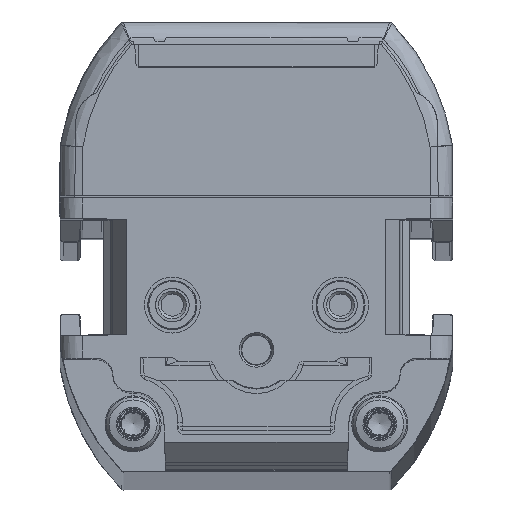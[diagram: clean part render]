
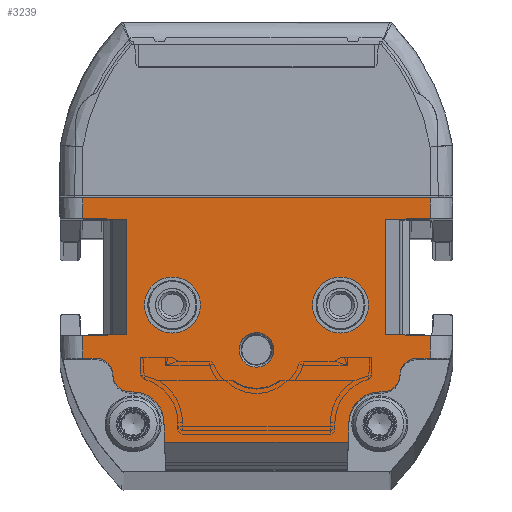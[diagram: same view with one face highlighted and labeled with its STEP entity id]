
A CAD part, top view. The second image highlights one B-rep face of the part: STEP entity #3239.
In plain terms, the highlighted planar face has unit normal (0, 0, 1).
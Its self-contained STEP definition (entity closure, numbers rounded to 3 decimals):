
#1178=FACE_BOUND('',#5343,.T.);
#1179=FACE_BOUND('',#5344,.T.);
#1180=FACE_BOUND('',#5345,.T.);
#1181=FACE_BOUND('',#5346,.T.);
#1900=CIRCLE('',#17502,2.5);
#1901=CIRCLE('',#17504,2.5);
#1902=CIRCLE('',#17506,1.55);
#1905=CIRCLE('',#17576,1.5);
#1906=CIRCLE('',#17577,1.5);
#1907=CIRCLE('',#17578,1.5);
#1908=CIRCLE('',#17579,1.5);
#1909=CIRCLE('',#17580,2.75);
#1910=CIRCLE('',#17581,2.75);
#3239=ADVANCED_FACE('',(#1178,#1179,#1180,#1181),#3754,.T.);
#3754=PLANE('',#17582);
#5343=EDGE_LOOP('',(#9281));
#5344=EDGE_LOOP('',(#9282));
#5345=EDGE_LOOP('',(#9283));
#5346=EDGE_LOOP('',(#9284,#9285,#9286,#9287,#9288,#9289,#9290,#9291,#9292,
#9293,#9294,#9295,#9296,#9297,#9298,#9299,#9300,#9301,#9302,#9303,#9304,
#9305,#9306,#9307,#9308,#9309));
#9281=ORIENTED_EDGE('',*,*,#13579,.T.);
#9282=ORIENTED_EDGE('',*,*,#13578,.F.);
#9283=ORIENTED_EDGE('',*,*,#13577,.F.);
#9284=ORIENTED_EDGE('',*,*,#13699,.F.);
#9285=ORIENTED_EDGE('',*,*,#13700,.T.);
#9286=ORIENTED_EDGE('',*,*,#13701,.T.);
#9287=ORIENTED_EDGE('',*,*,#13702,.T.);
#9288=ORIENTED_EDGE('',*,*,#13630,.T.);
#9289=ORIENTED_EDGE('',*,*,#13576,.T.);
#9290=ORIENTED_EDGE('',*,*,#13573,.T.);
#9291=ORIENTED_EDGE('',*,*,#13572,.T.);
#9292=ORIENTED_EDGE('',*,*,#13698,.T.);
#9293=ORIENTED_EDGE('',*,*,#13703,.F.);
#9294=ORIENTED_EDGE('',*,*,#13704,.F.);
#9295=ORIENTED_EDGE('',*,*,#13705,.F.);
#9296=ORIENTED_EDGE('',*,*,#13692,.T.);
#9297=ORIENTED_EDGE('',*,*,#13568,.F.);
#9298=ORIENTED_EDGE('',*,*,#13564,.T.);
#9299=ORIENTED_EDGE('',*,*,#13563,.F.);
#9300=ORIENTED_EDGE('',*,*,#13603,.T.);
#9301=ORIENTED_EDGE('',*,*,#13706,.F.);
#9302=ORIENTED_EDGE('',*,*,#13707,.T.);
#9303=ORIENTED_EDGE('',*,*,#13708,.T.);
#9304=ORIENTED_EDGE('',*,*,#13709,.F.);
#9305=ORIENTED_EDGE('',*,*,#13710,.F.);
#9306=ORIENTED_EDGE('',*,*,#13711,.F.);
#9307=ORIENTED_EDGE('',*,*,#13611,.T.);
#9308=ORIENTED_EDGE('',*,*,#13712,.F.);
#9309=ORIENTED_EDGE('',*,*,#13713,.F.);
#11499=VERTEX_POINT('',#29891);
#11500=VERTEX_POINT('',#29893);
#11501=VERTEX_POINT('',#29897);
#11502=VERTEX_POINT('',#29901);
#11504=VERTEX_POINT('',#29907);
#11506=VERTEX_POINT('',#29911);
#11507=VERTEX_POINT('',#29915);
#11508=VERTEX_POINT('',#29919);
#11509=VERTEX_POINT('',#29923);
#11510=VERTEX_POINT('',#29926);
#11511=VERTEX_POINT('',#29929);
#11528=VERTEX_POINT('',#30023);
#11533=VERTEX_POINT('',#30037);
#11534=VERTEX_POINT('',#30039);
#11547=VERTEX_POINT('',#30079);
#11581=VERTEX_POINT('',#30332);
#11585=VERTEX_POINT('',#30342);
#11586=VERTEX_POINT('',#30346);
#11587=VERTEX_POINT('',#30347);
#11588=VERTEX_POINT('',#30349);
#11589=VERTEX_POINT('',#30351);
#11590=VERTEX_POINT('',#30354);
#11591=VERTEX_POINT('',#30356);
#11592=VERTEX_POINT('',#30359);
#11593=VERTEX_POINT('',#30361);
#11594=VERTEX_POINT('',#30363);
#11595=VERTEX_POINT('',#30365);
#11596=VERTEX_POINT('',#30367);
#11597=VERTEX_POINT('',#30370);
#13563=EDGE_CURVE('',#11500,#11499,#15088,.T.);
#13564=EDGE_CURVE('',#11501,#11499,#15089,.T.);
#13568=EDGE_CURVE('',#11501,#11502,#15092,.T.);
#13572=EDGE_CURVE('',#11504,#11506,#15095,.T.);
#13573=EDGE_CURVE('',#11507,#11504,#15096,.T.);
#13576=EDGE_CURVE('',#11508,#11507,#15098,.T.);
#13577=EDGE_CURVE('',#11509,#11509,#1900,.T.);
#13578=EDGE_CURVE('',#11510,#11510,#1901,.T.);
#13579=EDGE_CURVE('',#11511,#11511,#1902,.T.);
#13603=EDGE_CURVE('',#11500,#11528,#15113,.T.);
#13611=EDGE_CURVE('',#11533,#11534,#15119,.T.);
#13630=EDGE_CURVE('',#11547,#11508,#15132,.T.);
#13692=EDGE_CURVE('',#11581,#11502,#15175,.T.);
#13698=EDGE_CURVE('',#11506,#11585,#15177,.T.);
#13699=EDGE_CURVE('',#11586,#11587,#15178,.T.);
#13700=EDGE_CURVE('',#11586,#11588,#1905,.T.);
#13701=EDGE_CURVE('',#11588,#11589,#1906,.T.);
#13702=EDGE_CURVE('',#11589,#11547,#15179,.T.);
#13703=EDGE_CURVE('',#11590,#11585,#15180,.T.);
#13704=EDGE_CURVE('',#11591,#11590,#15181,.T.);
#13705=EDGE_CURVE('',#11581,#11591,#15182,.T.);
#13706=EDGE_CURVE('',#11592,#11528,#15183,.T.);
#13707=EDGE_CURVE('',#11592,#11593,#1907,.T.);
#13708=EDGE_CURVE('',#11593,#11594,#1908,.T.);
#13709=EDGE_CURVE('',#11595,#11594,#15184,.T.);
#13710=EDGE_CURVE('',#11596,#11595,#1909,.T.);
#13711=EDGE_CURVE('',#11533,#11596,#15185,.T.);
#13712=EDGE_CURVE('',#11597,#11534,#15186,.T.);
#13713=EDGE_CURVE('',#11587,#11597,#1910,.T.);
#15088=LINE('',#29894,#16251);
#15089=LINE('',#29896,#16252);
#15092=LINE('',#29904,#16255);
#15095=LINE('',#29912,#16258);
#15096=LINE('',#29914,#16259);
#15098=LINE('',#29920,#16261);
#15113=LINE('',#30024,#16276);
#15119=LINE('',#30040,#16282);
#15132=LINE('',#30078,#16295);
#15175=LINE('',#30331,#16338);
#15177=LINE('',#30343,#16340);
#15178=LINE('',#30345,#16341);
#15179=LINE('',#30352,#16342);
#15180=LINE('',#30353,#16343);
#15181=LINE('',#30355,#16344);
#15182=LINE('',#30357,#16345);
#15183=LINE('',#30358,#16346);
#15184=LINE('',#30364,#16347);
#15185=LINE('',#30368,#16348);
#15186=LINE('',#30369,#16349);
#16251=VECTOR('',#20699,1.);
#16252=VECTOR('',#20702,1.);
#16255=VECTOR('',#20709,1.);
#16258=VECTOR('',#20716,1.);
#16259=VECTOR('',#20719,1.);
#16261=VECTOR('',#20725,1.);
#16276=VECTOR('',#20776,1.);
#16282=VECTOR('',#20790,1.);
#16295=VECTOR('',#20829,1.);
#16338=VECTOR('',#20940,1.);
#16340=VECTOR('',#20952,1.);
#16341=VECTOR('',#20955,1.);
#16342=VECTOR('',#20960,1.);
#16343=VECTOR('',#20961,1.);
#16344=VECTOR('',#20962,1.);
#16345=VECTOR('',#20963,1.);
#16346=VECTOR('',#20964,1.);
#16347=VECTOR('',#20969,1.);
#16348=VECTOR('',#20972,1.);
#16349=VECTOR('',#20973,1.);
#17502=AXIS2_PLACEMENT_3D('',#29922,#20728,#20729);
#17504=AXIS2_PLACEMENT_3D('',#29925,#20732,#20733);
#17506=AXIS2_PLACEMENT_3D('',#29928,#20736,#20737);
#17576=AXIS2_PLACEMENT_3D('',#30348,#20956,#20957);
#17577=AXIS2_PLACEMENT_3D('',#30350,#20958,#20959);
#17578=AXIS2_PLACEMENT_3D('',#30360,#20965,#20966);
#17579=AXIS2_PLACEMENT_3D('',#30362,#20967,#20968);
#17580=AXIS2_PLACEMENT_3D('',#30366,#20970,#20971);
#17581=AXIS2_PLACEMENT_3D('',#30371,#20974,#20975);
#17582=AXIS2_PLACEMENT_3D('',#30372,#20976,#20977);
#20699=DIRECTION('',(1.,0.017,0.));
#20702=DIRECTION('',(0.,-1.,0.));
#20709=DIRECTION('',(-1.,0.017,0.));
#20716=DIRECTION('',(1.,0.017,0.));
#20719=DIRECTION('',(0.,1.,0.));
#20725=DIRECTION('',(-1.,0.017,0.));
#20728=DIRECTION('',(0.,0.,1.));
#20729=DIRECTION('',(1.,0.,0.));
#20732=DIRECTION('',(0.,0.,1.));
#20733=DIRECTION('',(1.,0.,0.));
#20736=DIRECTION('',(0.,0.,-1.));
#20737=DIRECTION('',(1.,0.,0.));
#20776=DIRECTION('',(0.,-1.,0.));
#20790=DIRECTION('',(1.,0.,0.));
#20829=DIRECTION('',(0.,1.,0.));
#20940=DIRECTION('',(0.,-1.,0.));
#20952=DIRECTION('',(0.,1.,0.));
#20955=DIRECTION('',(-1.,0.,0.));
#20956=DIRECTION('',(0.,0.,1.));
#20957=DIRECTION('',(1.,0.,0.));
#20958=DIRECTION('',(0.,0.,-1.));
#20959=DIRECTION('',(1.,0.,0.));
#20960=DIRECTION('',(1.,0.,0.));
#20961=DIRECTION('',(1.,-0.017,0.));
#20962=DIRECTION('',(1.,0.,0.));
#20963=DIRECTION('',(1.,0.017,0.));
#20964=DIRECTION('',(-1.,0.,0.));
#20965=DIRECTION('',(0.,0.,-1.));
#20966=DIRECTION('',(1.,0.,0.));
#20967=DIRECTION('',(0.,0.,1.));
#20968=DIRECTION('',(1.,0.,0.));
#20969=DIRECTION('',(-1.,0.,0.));
#20970=DIRECTION('',(0.,0.,1.));
#20971=DIRECTION('',(1.,0.,0.));
#20972=DIRECTION('',(-0.035,0.999,0.));
#20973=DIRECTION('',(-0.035,-0.999,0.));
#20974=DIRECTION('',(0.,0.,1.));
#20975=DIRECTION('',(1.,0.,0.));
#20976=DIRECTION('',(0.,0.,1.));
#20977=DIRECTION('',(1.,0.,0.));
#29891=CARTESIAN_POINT('',(-11.55,12.107,999.));
#29893=CARTESIAN_POINT('',(-15.5,12.038,999.));
#29894=CARTESIAN_POINT('',(-17.709,11.999,999.));
#29896=CARTESIAN_POINT('',(-11.55,0.,999.));
#29897=CARTESIAN_POINT('',(-11.55,22.393,999.));
#29901=CARTESIAN_POINT('',(-15.5,22.462,999.));
#29904=CARTESIAN_POINT('',(-17.107,22.49,999.));
#29907=CARTESIAN_POINT('',(11.55,22.393,999.));
#29911=CARTESIAN_POINT('',(15.5,22.462,999.));
#29912=CARTESIAN_POINT('',(-17.882,21.88,999.));
#29914=CARTESIAN_POINT('',(11.55,0.,999.));
#29915=CARTESIAN_POINT('',(11.55,12.107,999.));
#29919=CARTESIAN_POINT('',(15.5,12.038,999.));
#29920=CARTESIAN_POINT('',(-17.28,12.61,999.));
#29922=CARTESIAN_POINT('',(-7.5,14.75,999.));
#29923=CARTESIAN_POINT('',(-5.,14.75,999.));
#29925=CARTESIAN_POINT('',(7.5,14.75,999.));
#29926=CARTESIAN_POINT('',(10.,14.75,999.));
#29928=CARTESIAN_POINT('',(0.,10.75,999.));
#29929=CARTESIAN_POINT('',(1.55,10.75,999.));
#30023=CARTESIAN_POINT('',(-15.5,10.,999.));
#30024=CARTESIAN_POINT('',(-15.5,0.,999.));
#30037=CARTESIAN_POINT('',(-8.189,2.5,999.));
#30039=CARTESIAN_POINT('',(8.189,2.5,999.));
#30040=CARTESIAN_POINT('',(-17.5,2.5,999.));
#30078=CARTESIAN_POINT('',(15.5,0.,999.));
#30079=CARTESIAN_POINT('',(15.5,10.,999.));
#30331=CARTESIAN_POINT('',(-15.5,0.,999.));
#30332=CARTESIAN_POINT('',(-15.5,24.317,999.));
#30342=CARTESIAN_POINT('',(15.5,24.317,999.));
#30343=CARTESIAN_POINT('',(15.5,0.,999.));
#30345=CARTESIAN_POINT('',(23.25,7.,999.));
#30346=CARTESIAN_POINT('',(11.3,7.,999.));
#30347=CARTESIAN_POINT('',(11.002,7.,999.));
#30348=CARTESIAN_POINT('',(11.3,8.5,999.));
#30349=CARTESIAN_POINT('',(12.8,8.5,999.));
#30350=CARTESIAN_POINT('',(14.3,8.5,999.));
#30351=CARTESIAN_POINT('',(14.3,10.,999.));
#30352=CARTESIAN_POINT('',(-17.5,10.,999.));
#30353=CARTESIAN_POINT('',(-17.066,24.886,999.));
#30354=CARTESIAN_POINT('',(13.025,24.36,999.));
#30355=CARTESIAN_POINT('',(-17.5,24.36,999.));
#30356=CARTESIAN_POINT('',(-13.025,24.36,999.));
#30357=CARTESIAN_POINT('',(-17.924,24.275,999.));
#30358=CARTESIAN_POINT('',(-17.5,10.,999.));
#30359=CARTESIAN_POINT('',(-14.3,10.,999.));
#30360=CARTESIAN_POINT('',(-14.3,8.5,999.));
#30361=CARTESIAN_POINT('',(-12.8,8.5,999.));
#30362=CARTESIAN_POINT('',(-11.3,8.5,999.));
#30363=CARTESIAN_POINT('',(-11.3,7.,999.));
#30364=CARTESIAN_POINT('',(-11.,7.,999.));
#30365=CARTESIAN_POINT('',(-11.002,7.,999.));
#30366=CARTESIAN_POINT('',(-11.002,4.25,999.));
#30367=CARTESIAN_POINT('',(-8.253,4.346,999.));
#30368=CARTESIAN_POINT('',(-8.25,4.25,999.));
#30369=CARTESIAN_POINT('',(8.25,4.25,999.));
#30370=CARTESIAN_POINT('',(8.253,4.346,999.));
#30371=CARTESIAN_POINT('',(11.002,4.25,999.));
#30372=CARTESIAN_POINT('',(-17.5,0.,999.));
